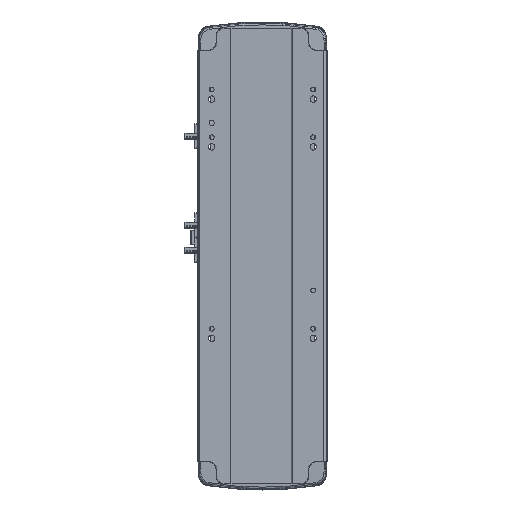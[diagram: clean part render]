
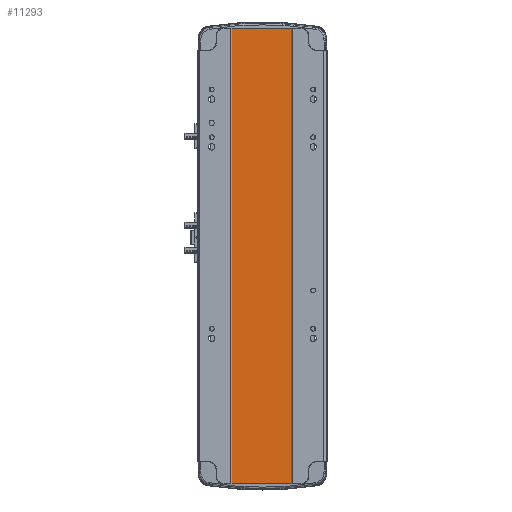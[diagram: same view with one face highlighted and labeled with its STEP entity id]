
A CAD part, front view. The second image highlights one B-rep face of the part: STEP entity #11293.
In plain terms, the highlighted planar face has unit normal (0, -1, 0).
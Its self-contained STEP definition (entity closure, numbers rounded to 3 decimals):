
#2494 = DIRECTION ( 'NONE',  ( 0., 0., -1. ) ) ;
#4722 = VECTOR ( 'NONE', #2494, 1000. ) ;
#5996 = VECTOR ( 'NONE', #20295, 1000. ) ;
#6615 = DIRECTION ( 'NONE',  ( 1., 0., 0. ) ) ;
#6626 = ORIENTED_EDGE ( 'NONE', *, *, #36678, .T. ) ;
#7226 = ORIENTED_EDGE ( 'NONE', *, *, #16606, .F. ) ;
#8890 = EDGE_CURVE ( 'NONE', #40166, #19118, #22483, .T. ) ;
#9298 = DIRECTION ( 'NONE',  ( 0., 0., -1. ) ) ;
#9896 = CARTESIAN_POINT ( 'NONE',  ( 30., 1., 476. ) ) ;
#10987 = LINE ( 'NONE', #12240, #38556 ) ;
#11293 = ADVANCED_FACE ( 'NONE', ( #13569 ), #40887, .F. ) ;
#12240 = CARTESIAN_POINT ( 'NONE',  ( -32., 1., 476. ) ) ;
#12688 = CARTESIAN_POINT ( 'NONE',  ( -32., 1., 476. ) ) ;
#13569 = FACE_OUTER_BOUND ( 'NONE', #18751, .T. ) ;
#13960 = CARTESIAN_POINT ( 'NONE',  ( 30., 1., 476. ) ) ;
#16606 = EDGE_CURVE ( 'NONE', #35154, #28042, #44339, .T. ) ;
#18751 = EDGE_LOOP ( 'NONE', ( #20146, #42389, #7226, #6626 ) ) ;
#19118 = VERTEX_POINT ( 'NONE', #42746 ) ;
#20146 = ORIENTED_EDGE ( 'NONE', *, *, #8890, .T. ) ;
#20295 = DIRECTION ( 'NONE',  ( 1., 0., 0. ) ) ;
#21394 = CARTESIAN_POINT ( 'NONE',  ( -32., 1., 0. ) ) ;
#22483 = LINE ( 'NONE', #41734, #5996 ) ;
#23118 = DIRECTION ( 'NONE',  ( 0., 1., 0. ) ) ;
#27687 = AXIS2_PLACEMENT_3D ( 'NONE', #12688, #23118, #37342 ) ;
#27727 = VECTOR ( 'NONE', #6615, 1000. ) ;
#27809 = CARTESIAN_POINT ( 'NONE',  ( -32., 1., 476. ) ) ;
#28042 = VERTEX_POINT ( 'NONE', #13960 ) ;
#31159 = LINE ( 'NONE', #9896, #4722 ) ;
#35154 = VERTEX_POINT ( 'NONE', #27809 ) ;
#36678 = EDGE_CURVE ( 'NONE', #35154, #40166, #10987, .T. ) ;
#37342 = DIRECTION ( 'NONE',  ( -1., 0., 0. ) ) ;
#37910 = CARTESIAN_POINT ( 'NONE',  ( -32., 1., 476. ) ) ;
#38556 = VECTOR ( 'NONE', #9298, 1000. ) ;
#38803 = EDGE_CURVE ( 'NONE', #28042, #19118, #31159, .T. ) ;
#40166 = VERTEX_POINT ( 'NONE', #21394 ) ;
#40887 = PLANE ( 'NONE',  #27687 ) ;
#41734 = CARTESIAN_POINT ( 'NONE',  ( -32., 1., 0. ) ) ;
#42389 = ORIENTED_EDGE ( 'NONE', *, *, #38803, .F. ) ;
#42746 = CARTESIAN_POINT ( 'NONE',  ( 30., 1., 0. ) ) ;
#44339 = LINE ( 'NONE', #37910, #27727 ) ;
